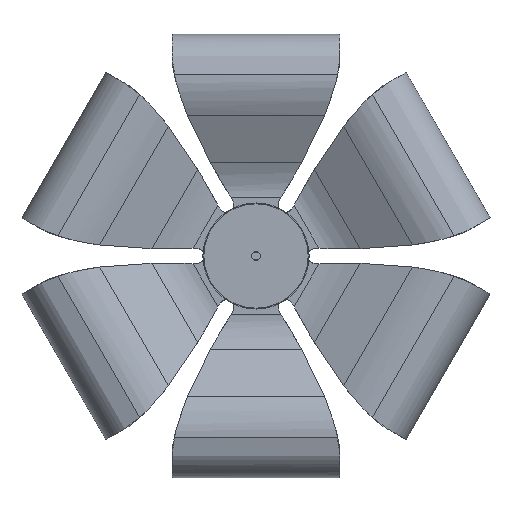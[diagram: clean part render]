
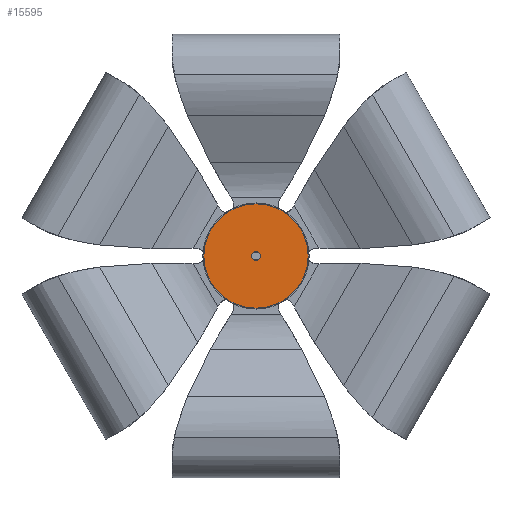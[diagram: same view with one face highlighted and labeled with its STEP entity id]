
A CAD part, front view. The second image highlights one B-rep face of the part: STEP entity #15595.
In plain terms, the highlighted planar face has unit normal (0, -1, 0).
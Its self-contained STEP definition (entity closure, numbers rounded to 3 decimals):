
#808 = DIRECTION ( 'NONE',  ( 0., 0., 1. ) ) ;
#1348 = AXIS2_PLACEMENT_3D ( 'NONE', #11418, #4597, #16552 ) ;
#1935 = EDGE_CURVE ( 'NONE', #7782, #19206, #13712, .T. ) ;
#3181 = ORIENTED_EDGE ( 'NONE', *, *, #7215, .F. ) ;
#3424 = CARTESIAN_POINT ( 'NONE',  ( 60., 19., -60. ) ) ;
#3772 = CIRCLE ( 'NONE', #19521, 5. ) ;
#4164 = AXIS2_PLACEMENT_3D ( 'NONE', #3424, #17238, #5141 ) ;
#4276 = FACE_BOUND ( 'NONE', #7871, .T. ) ;
#4597 = DIRECTION ( 'NONE',  ( 0., 1., 0. ) ) ;
#4849 = AXIS2_PLACEMENT_3D ( 'NONE', #13641, #6929, #10448 ) ;
#5141 = DIRECTION ( 'NONE',  ( 1., 0., 0. ) ) ;
#5406 = CIRCLE ( 'NONE', #1348, 59. ) ;
#5647 = DIRECTION ( 'NONE',  ( 0., -1., 0. ) ) ;
#5731 = AXIS2_PLACEMENT_3D ( 'NONE', #14483, #21635, #808 ) ;
#6776 = CARTESIAN_POINT ( 'NONE',  ( 60., 19., -55. ) ) ;
#6929 = DIRECTION ( 'NONE',  ( 0., 1., 0. ) ) ;
#7215 = EDGE_CURVE ( 'NONE', #19206, #7782, #5406, .T. ) ;
#7630 = CARTESIAN_POINT ( 'NONE',  ( 1., 19., -60. ) ) ;
#7782 = VERTEX_POINT ( 'NONE', #10046 ) ;
#7871 = EDGE_LOOP ( 'NONE', ( #8572, #13027 ) ) ;
#7978 = CARTESIAN_POINT ( 'NONE',  ( 60., 19., -65. ) ) ;
#8572 = ORIENTED_EDGE ( 'NONE', *, *, #11254, .F. ) ;
#10046 = CARTESIAN_POINT ( 'NONE',  ( 119., 19., -60. ) ) ;
#10448 = DIRECTION ( 'NONE',  ( 1., 0., 0. ) ) ;
#10888 = EDGE_LOOP ( 'NONE', ( #3181, #21693 ) ) ;
#11254 = EDGE_CURVE ( 'NONE', #20669, #18511, #3772, .T. ) ;
#11418 = CARTESIAN_POINT ( 'NONE',  ( 60., 19., -60. ) ) ;
#12599 = CARTESIAN_POINT ( 'NONE',  ( 60., 19., -60. ) ) ;
#13027 = ORIENTED_EDGE ( 'NONE', *, *, #21434, .F. ) ;
#13641 = CARTESIAN_POINT ( 'NONE',  ( 60., 19., -60. ) ) ;
#13654 = PLANE ( 'NONE',  #4164 ) ;
#13712 = CIRCLE ( 'NONE', #4849, 59. ) ;
#14483 = CARTESIAN_POINT ( 'NONE',  ( 60., 19., -60. ) ) ;
#15595 = ADVANCED_FACE ( 'NONE', ( #17675, #4276 ), #13654, .F. ) ;
#16552 = DIRECTION ( 'NONE',  ( -1., 0., 0. ) ) ;
#17238 = DIRECTION ( 'NONE',  ( 0., 1., 0. ) ) ;
#17546 = CIRCLE ( 'NONE', #5731, 5. ) ;
#17675 = FACE_OUTER_BOUND ( 'NONE', #10888, .T. ) ;
#18511 = VERTEX_POINT ( 'NONE', #6776 ) ;
#19206 = VERTEX_POINT ( 'NONE', #7630 ) ;
#19521 = AXIS2_PLACEMENT_3D ( 'NONE', #12599, #5647, #19571 ) ;
#19571 = DIRECTION ( 'NONE',  ( 0., 0., -1. ) ) ;
#20669 = VERTEX_POINT ( 'NONE', #7978 ) ;
#21434 = EDGE_CURVE ( 'NONE', #18511, #20669, #17546, .T. ) ;
#21635 = DIRECTION ( 'NONE',  ( 0., -1., 0. ) ) ;
#21693 = ORIENTED_EDGE ( 'NONE', *, *, #1935, .F. ) ;
